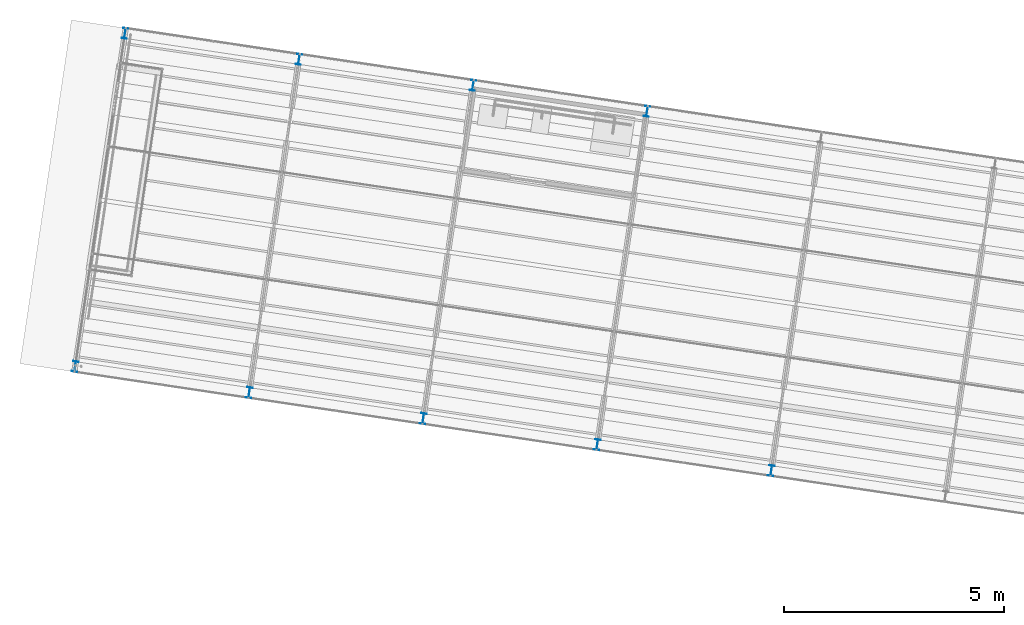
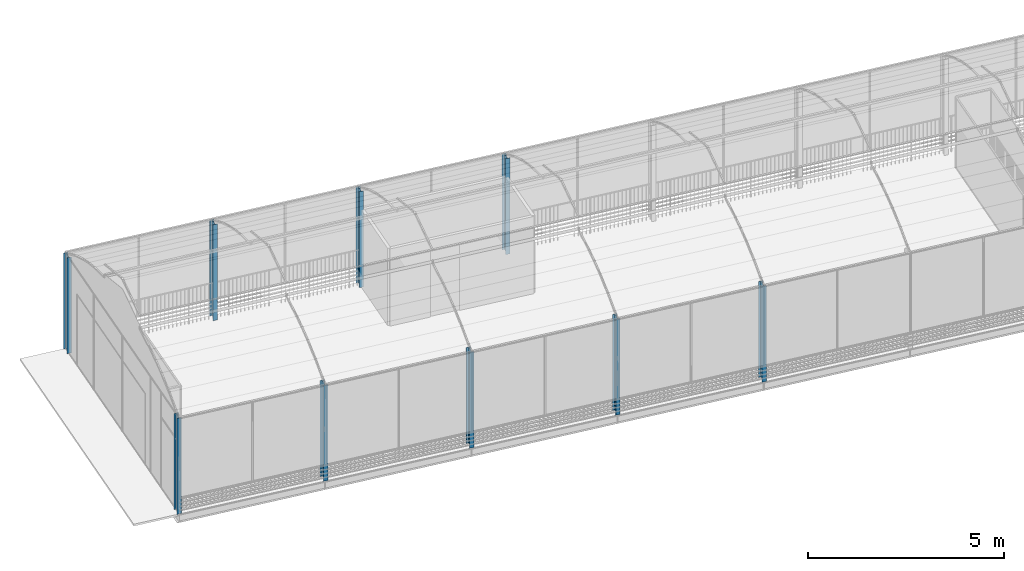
# One storey, part 1 of 34: 9 columns.
"""IFC4 building model written with IfcOpenShell, lengths in metres."""

from ifc_helpers import new_model, si_unit, direction, frame, origin_with_axes, place, context, subcontext, project, spatial, i_section, extrude, material, material_profile, profile_set, profile_usage, type_object, element, save


model = new_model("IFC4")

# Units and contexts
model_context = context("Model", 3, precision=1e-05, world=origin_with_axes(), true_north=direction((0.0, 1.0)))
body_context = subcontext(model_context, "Body", "Model", "MODEL_VIEW")
ifc_project = project(units=[si_unit("VOLUMEUNIT", "CUBIC_METRE"), si_unit("LENGTHUNIT", "METRE"), si_unit("AREAUNIT", "SQUARE_METRE")], contexts=[model_context])

# Site, building, storey
site_placement = place(None, origin_with_axes())
site = spatial("IfcSite", under=ifc_project, at=site_placement, Name="Lares · Rua das Mercês · artigo 4771")
building_placement = place(site_placement, frame((12.0, 10.2, 13.9), z_axis=(0.0, 0.0, 1.0), x_axis=(0.989015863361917, -0.147809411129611, 0.0)))
building = spatial("IfcBuilding", under=site, at=building_placement, Name="Casa Sobreposta")
storey_placement = place(building_placement, frame((0.0, 0.0, 3.24), z_axis=(0.0, 0.0, 1.0), x_axis=(1.0, 0.0, 0.0)))
storey = spatial("IfcBuildingStorey", under=building, at=storey_placement, Name="01 · Jardim de inverno", Elevation=17.14)

# Columns
ifc_material = material(Name="Aço pintado / Stahl lackiert", Category="steel")
ifc_material_profile = material_profile(ifc_material, i_section(OverallWidth=0.12, OverallDepth=0.24, WebThickness=0.0062, FlangeThickness=0.0098))
ifc_profile_set = profile_set([ifc_material_profile], Name="IPE240")
ifc_profile_usage_1 = profile_usage(ifc_profile_set)
column_type = type_object("IfcColumnType", Name="IPE240 / steel", PredefinedType="NOTDEFINED", material=ifc_profile_set)
column_1_placement = place(storey_placement, frame((0.0, -1.38, 0.0), z_axis=(0.0, 0.0, 1.0), x_axis=(1.0, 0.0, 0.0)))
element("IfcColumn", 1, at=column_1_placement, inside=storey, type_object=column_type, material=ifc_profile_usage_1, Name="Pilar estufa 1A · IPE240", context=body_context, shape_type="SweptSolid", body=[
    extrude(i_section(OverallWidth=0.12, OverallDepth=0.24, WebThickness=0.0062, FlangeThickness=0.0098), origin_with_axes(), (0.0, 0.0, 1.0), 2.98),
])
ifc_profile_usage_2 = profile_usage(ifc_profile_set)
column_2_placement = place(storey_placement, frame((0.0, 6.28, 0.0), z_axis=(0.0, 0.0, 1.0), x_axis=(1.0, 0.0, 0.0)))
element("IfcColumn", 2, at=column_2_placement, inside=storey, type_object=column_type, material=ifc_profile_usage_2, Name="Pilar estufa 1B · IPE240", context=body_context, shape_type="SweptSolid", body=[
    extrude(i_section(OverallWidth=0.12, OverallDepth=0.24, WebThickness=0.0062, FlangeThickness=0.0098), origin_with_axes(), (0.0, 0.0, 1.0), 2.98),
])
ifc_profile_usage_3 = profile_usage(ifc_profile_set)
column_3_placement = place(storey_placement, frame((4.0, -1.38, 0.0), z_axis=(0.0, 0.0, 1.0), x_axis=(1.0, 0.0, 0.0)))
element("IfcColumn", 3, at=column_3_placement, inside=storey, type_object=column_type, material=ifc_profile_usage_3, Name="Pilar estufa 2A · IPE240", context=body_context, shape_type="SweptSolid", body=[
    extrude(i_section(OverallWidth=0.12, OverallDepth=0.24, WebThickness=0.0062, FlangeThickness=0.0098), origin_with_axes(), (0.0, 0.0, 1.0), 2.98),
])
ifc_profile_usage_4 = profile_usage(ifc_profile_set)
column_4_placement = place(storey_placement, frame((4.0, 6.28, 0.0), z_axis=(0.0, 0.0, 1.0), x_axis=(1.0, 0.0, 0.0)))
element("IfcColumn", 4, at=column_4_placement, inside=storey, type_object=column_type, material=ifc_profile_usage_4, Name="Pilar estufa 2B · IPE240", context=body_context, shape_type="SweptSolid", body=[
    extrude(i_section(OverallWidth=0.12, OverallDepth=0.24, WebThickness=0.0062, FlangeThickness=0.0098), origin_with_axes(), (0.0, 0.0, 1.0), 2.98),
])
ifc_profile_usage_5 = profile_usage(ifc_profile_set)
column_5_placement = place(storey_placement, frame((8.0, -1.38, 0.0), z_axis=(0.0, 0.0, 1.0), x_axis=(1.0, 0.0, 0.0)))
element("IfcColumn", 5, at=column_5_placement, inside=storey, type_object=column_type, material=ifc_profile_usage_5, Name="Pilar estufa 3A · IPE240", context=body_context, shape_type="SweptSolid", body=[
    extrude(i_section(OverallWidth=0.12, OverallDepth=0.24, WebThickness=0.0062, FlangeThickness=0.0098), origin_with_axes(), (0.0, 0.0, 1.0), 2.98),
])
ifc_profile_usage_6 = profile_usage(ifc_profile_set)
column_6_placement = place(storey_placement, frame((8.0, 6.28, 0.0), z_axis=(0.0, 0.0, 1.0), x_axis=(1.0, 0.0, 0.0)))
element("IfcColumn", 6, at=column_6_placement, inside=storey, type_object=column_type, material=ifc_profile_usage_6, Name="Pilar estufa 3B · IPE240", context=body_context, shape_type="SweptSolid", body=[
    extrude(i_section(OverallWidth=0.12, OverallDepth=0.24, WebThickness=0.0062, FlangeThickness=0.0098), origin_with_axes(), (0.0, 0.0, 1.0), 2.98),
])
ifc_profile_usage_7 = profile_usage(ifc_profile_set)
column_7_placement = place(storey_placement, frame((12.0, -1.38, 0.0), z_axis=(0.0, 0.0, 1.0), x_axis=(1.0, 0.0, 0.0)))
element("IfcColumn", 7, at=column_7_placement, inside=storey, type_object=column_type, material=ifc_profile_usage_7, Name="Pilar estufa 4A · IPE240", context=body_context, shape_type="SweptSolid", body=[
    extrude(i_section(OverallWidth=0.12, OverallDepth=0.24, WebThickness=0.0062, FlangeThickness=0.0098), origin_with_axes(), (0.0, 0.0, 1.0), 2.98),
])
ifc_profile_usage_8 = profile_usage(ifc_profile_set)
column_8_placement = place(storey_placement, frame((12.0, 6.28, 0.0), z_axis=(0.0, 0.0, 1.0), x_axis=(1.0, 0.0, 0.0)))
element("IfcColumn", 8, at=column_8_placement, inside=storey, type_object=column_type, material=ifc_profile_usage_8, Name="Pilar estufa 4B · IPE240", context=body_context, shape_type="SweptSolid", body=[
    extrude(i_section(OverallWidth=0.12, OverallDepth=0.24, WebThickness=0.0062, FlangeThickness=0.0098), origin_with_axes(), (0.0, 0.0, 1.0), 2.98),
])
ifc_profile_usage_9 = profile_usage(ifc_profile_set)
column_9_placement = place(storey_placement, frame((16.0, -1.38, 0.0), z_axis=(0.0, 0.0, 1.0), x_axis=(1.0, 0.0, 0.0)))
element("IfcColumn", 9, at=column_9_placement, inside=storey, type_object=column_type, material=ifc_profile_usage_9, Name="Pilar estufa 5A · IPE240", context=body_context, shape_type="SweptSolid", body=[
    extrude(i_section(OverallWidth=0.12, OverallDepth=0.24, WebThickness=0.0062, FlangeThickness=0.0098), origin_with_axes(), (0.0, 0.0, 1.0), 2.98),
])

save(model, "model.ifc")
